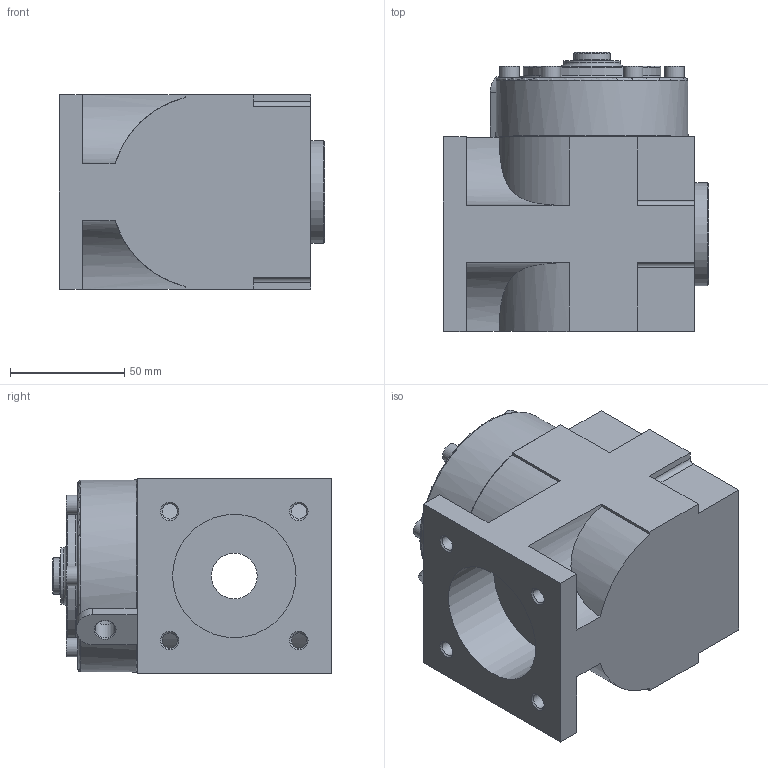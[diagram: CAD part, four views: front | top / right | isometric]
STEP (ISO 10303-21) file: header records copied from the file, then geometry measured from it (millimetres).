
FILE_DESCRIPTION( ( 'STEP AP214' ), ' ' );
FILE_NAME( 'p:/temp/worker_15/2520_1252/app_60_02016021712264261817720192d056f_000000_00_00_000000/format_1/L1-N06320.stp', '2016-02-17T11:26:41', ( '' ), ( '' ), ' ', 'PARTsolutions', ' ' );
FILE_SCHEMA( ( 'AUTOMOTIVE_DESIGN { 1 0 10303 214 1 1 1 1 }' ) );
Length unit declared in the file: millimetre
Products named in the file (1): _L1-N06320
Bounding box: 116 x 122 x 85 mm (x, y, z)
Volume: 779180.8 mm3; surface area: 76999.3 mm2
Topology: 1 solids, 1 shells, 162 faces, 400 edges, 261 vertices
Faces by surface type: plane 96, cylinder 39, cone 21, torus 6
Full cylindrical faces by diameter (mm): 2.5 x2, 6.647 x8, 8.5 x6, 8.566 x1, 16 x1, 20 x1, 24.912 x1, 28 x1, 45 x1, 54 x1, 60 x1
Entity records: 5958 total; most frequent: CARTESIAN_POINT 991, DIRECTION 748, ORIENTED_EDGE 672, EDGE_CURVE 336, AXIS2_PLACEMENT_3D 261, VERTEX_POINT 252, EDGE_LOOP 242, LINE 226
